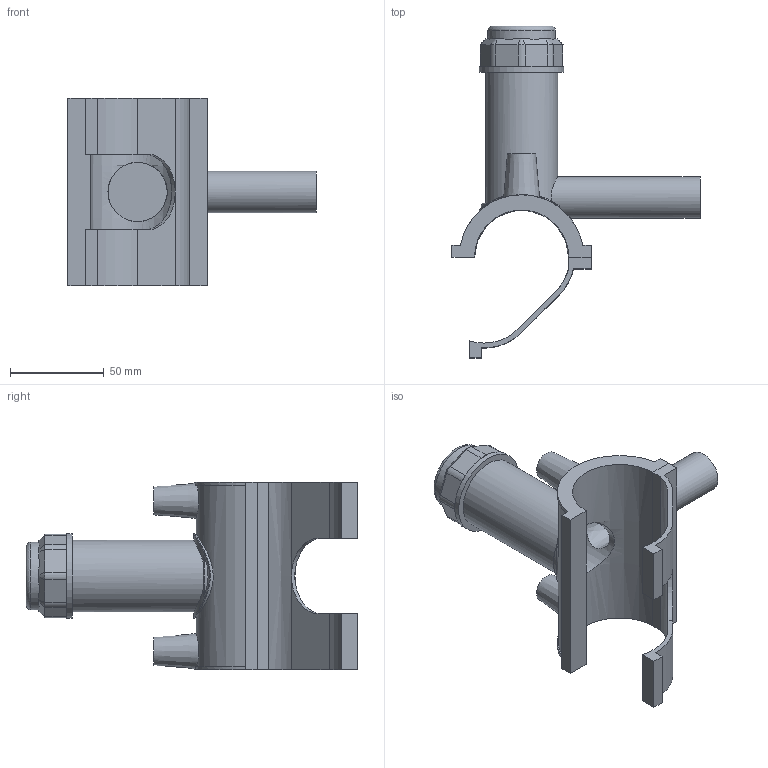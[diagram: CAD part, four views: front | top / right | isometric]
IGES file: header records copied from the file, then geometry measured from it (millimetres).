
Global section: file name: 5963BU03015007.ipt; native system: Autodesk Inventor 2019; preprocessor: unknown; author: KIM; date: 20210830.101440; units: millimetre
Bounding box: 132.08 x 176.62 x 100.08 mm (x, y, z)
Volume: 166930.8 mm3; surface area: 70785.8 mm2
Topology: 2 solids, 2 shells, 117 faces, 304 edges, 199 vertices
Faces by surface type: plane 68, cylinder 25, cone 13, revolution 10, bspline 1
Full cylindrical faces by diameter (mm): 4 x2, 22.1 x1, 36.072 x1, 38.327 x1, 45.09 x1
